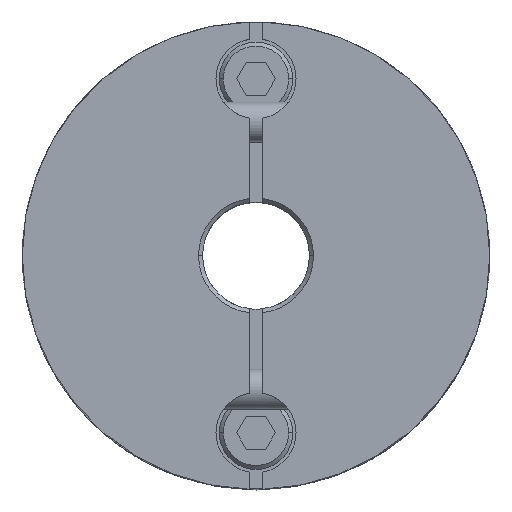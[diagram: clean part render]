
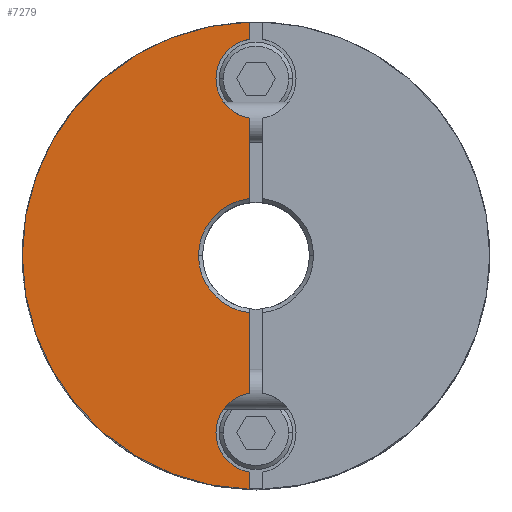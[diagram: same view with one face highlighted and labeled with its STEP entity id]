
A CAD part, top view. The second image highlights one B-rep face of the part: STEP entity #7279.
In plain terms, the highlighted planar face has unit normal (0, 0, 1).
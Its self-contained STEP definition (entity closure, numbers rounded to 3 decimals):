
#751=CARTESIAN_POINT('',(-4.3,0.,13.5));
#752=VERTEX_POINT('',#751);
#759=CARTESIAN_POINT('',(-0.5,-4.271,13.5));
#760=VERTEX_POINT('',#759);
#761=CARTESIAN_POINT('',(0.0,0.,13.5));
#762=DIRECTION('',(0.0,0.0,1.0));
#763=DIRECTION('',(1.0,0.0,0.0));
#764=AXIS2_PLACEMENT_3D('',#761,#762,#763);
#765=CIRCLE('',#764,4.3);
#766=EDGE_CURVE('',#752,#760,#765,.T.);
#831=CARTESIAN_POINT('',(-17.5,0.,13.5));
#832=VERTEX_POINT('',#831);
#916=CARTESIAN_POINT('',(-0.5,-17.493,13.5));
#917=VERTEX_POINT('',#916);
#924=CARTESIAN_POINT('',(0.0,0.,13.5));
#925=DIRECTION('',(0.0,0.0,-1.0));
#926=DIRECTION('',(-1.0,0.0,0.0));
#927=AXIS2_PLACEMENT_3D('',#924,#925,#926);
#928=CIRCLE('',#927,17.5);
#929=EDGE_CURVE('',#917,#832,#928,.T.);
#1353=CARTESIAN_POINT('',(-3.,-13.25,13.5));
#1354=VERTEX_POINT('',#1353);
#1363=CARTESIAN_POINT('',(-0.5,-16.208,13.5));
#1364=VERTEX_POINT('',#1363);
#1365=CARTESIAN_POINT('',(0.,-13.25,13.5));
#1366=DIRECTION('',(0.0,0.0,-1.0));
#1367=DIRECTION('',(-1.0,0.0,0.0));
#1368=AXIS2_PLACEMENT_3D('',#1365,#1366,#1367);
#1369=CIRCLE('',#1368,3.0);
#1370=EDGE_CURVE('',#1364,#1354,#1369,.T.);
#1585=CARTESIAN_POINT('',(-3.,13.25,13.5));
#1586=VERTEX_POINT('',#1585);
#1595=CARTESIAN_POINT('',(-0.5,10.292,13.5));
#1596=VERTEX_POINT('',#1595);
#1597=CARTESIAN_POINT('',(0.,13.25,13.5));
#1598=DIRECTION('',(0.0,0.0,-1.0));
#1599=DIRECTION('',(-1.0,0.0,0.0));
#1600=AXIS2_PLACEMENT_3D('',#1597,#1598,#1599);
#1601=CIRCLE('',#1600,3.0);
#1602=EDGE_CURVE('',#1596,#1586,#1601,.T.);
#5986=CARTESIAN_POINT('',(-0.5,16.208,13.5));
#5987=VERTEX_POINT('',#5986);
#5994=CARTESIAN_POINT('',(0.,13.25,13.5));
#5995=DIRECTION('',(0.0,0.0,-1.0));
#5996=DIRECTION('',(-1.0,0.0,0.0));
#5997=AXIS2_PLACEMENT_3D('',#5994,#5995,#5996);
#5998=CIRCLE('',#5997,3.0);
#5999=EDGE_CURVE('',#1586,#5987,#5998,.T.);
#6401=CARTESIAN_POINT('',(-0.5,-10.292,13.5));
#6402=VERTEX_POINT('',#6401);
#6409=CARTESIAN_POINT('',(0.,-13.25,13.5));
#6410=DIRECTION('',(0.0,0.0,-1.0));
#6411=DIRECTION('',(-1.0,0.0,0.0));
#6412=AXIS2_PLACEMENT_3D('',#6409,#6410,#6411);
#6413=CIRCLE('',#6412,3.0);
#6414=EDGE_CURVE('',#1354,#6402,#6413,.T.);
#6563=CARTESIAN_POINT('',(-0.5,4.271,13.5));
#6564=VERTEX_POINT('',#6563);
#6565=CARTESIAN_POINT('',(-0.5,4.271,13.5));
#6566=DIRECTION('',(0.0,1.0,0.0));
#6567=VECTOR('',#6566,6.021);
#6568=LINE('',#6565,#6567);
#6569=EDGE_CURVE('',#6564,#1596,#6568,.T.);
#6620=CARTESIAN_POINT('',(-0.5,-10.292,13.5));
#6621=DIRECTION('',(0.0,1.0,0.0));
#6622=VECTOR('',#6621,6.021);
#6623=LINE('',#6620,#6622);
#6624=EDGE_CURVE('',#6402,#760,#6623,.T.);
#7225=CARTESIAN_POINT('',(-0.5,-17.493,13.5));
#7226=DIRECTION('',(0.0,1.0,0.0));
#7227=VECTOR('',#7226,1.285);
#7228=LINE('',#7225,#7227);
#7229=EDGE_CURVE('',#917,#1364,#7228,.T.);
#7241=CARTESIAN_POINT('',(-1.591,0.,13.5));
#7242=DIRECTION('',(0.0,0.0,1.0));
#7243=DIRECTION('',(-1.0,0.0,0.0));
#7244=AXIS2_PLACEMENT_3D('',#7241,#7242,#7243);
#7245=PLANE('',#7244);
#7246=ORIENTED_EDGE('',*,*,#1370,.T.);
#7247=ORIENTED_EDGE('',*,*,#6414,.T.);
#7248=ORIENTED_EDGE('',*,*,#6624,.T.);
#7249=ORIENTED_EDGE('',*,*,#766,.F.);
#7250=CARTESIAN_POINT('',(0.0,0.,13.5));
#7251=DIRECTION('',(0.0,0.0,1.0));
#7252=DIRECTION('',(1.0,0.0,0.0));
#7253=AXIS2_PLACEMENT_3D('',#7250,#7251,#7252);
#7254=CIRCLE('',#7253,4.3);
#7255=EDGE_CURVE('',#6564,#752,#7254,.T.);
#7256=ORIENTED_EDGE('',*,*,#7255,.F.);
#7257=ORIENTED_EDGE('',*,*,#6569,.T.);
#7258=ORIENTED_EDGE('',*,*,#1602,.T.);
#7259=ORIENTED_EDGE('',*,*,#5999,.T.);
#7260=CARTESIAN_POINT('',(-0.5,17.493,13.5));
#7261=VERTEX_POINT('',#7260);
#7262=CARTESIAN_POINT('',(-0.5,16.208,13.5));
#7263=DIRECTION('',(0.0,1.0,0.0));
#7264=VECTOR('',#7263,1.285);
#7265=LINE('',#7262,#7264);
#7266=EDGE_CURVE('',#5987,#7261,#7265,.T.);
#7267=ORIENTED_EDGE('',*,*,#7266,.T.);
#7268=CARTESIAN_POINT('',(0.0,0.,13.5));
#7269=DIRECTION('',(0.0,0.0,-1.0));
#7270=DIRECTION('',(-1.0,0.0,0.0));
#7271=AXIS2_PLACEMENT_3D('',#7268,#7269,#7270);
#7272=CIRCLE('',#7271,17.5);
#7273=EDGE_CURVE('',#832,#7261,#7272,.T.);
#7274=ORIENTED_EDGE('',*,*,#7273,.F.);
#7275=ORIENTED_EDGE('',*,*,#929,.F.);
#7276=ORIENTED_EDGE('',*,*,#7229,.T.);
#7277=EDGE_LOOP('',(#7246,#7247,#7248,#7249,#7256,#7257,#7258,#7259,#7267,#7274,#7275,#7276));
#7278=FACE_OUTER_BOUND('',#7277,.T.);
#7279=ADVANCED_FACE('',(#7278),#7245,.T.);
